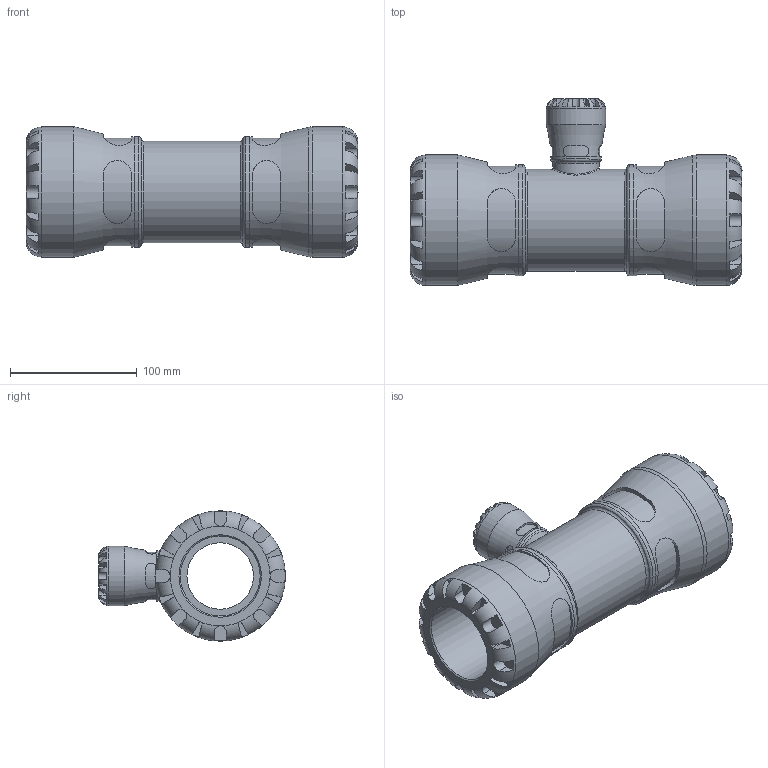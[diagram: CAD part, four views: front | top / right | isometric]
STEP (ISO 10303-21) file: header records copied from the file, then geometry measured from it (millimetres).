
FILE_DESCRIPTION(/* description */ ('PLASSON REDUCING TEE 63X25X63 SERIES 1'),/* implementation_level */ '2;1');
FILE_NAME(/* name */ 'C:\Dropbox\KIMPROJECTS-Inventor\99-16-3568-Processing\1034\103400063025_193400063025.ipt.stp',/* time_stamp */ '2017-01-22T11:40:50+02:00',/* author */ ('KIM'),/* organization */ (''),/* preprocessor_version */ 'ST-DEVELOPER v15.6',/* originating_system */ 'Autodesk Inventor 2015',/* authorisation */ '');
FILE_SCHEMA (('AUTOMOTIVE_DESIGN { 1 0 10303 214 3 1 1 }'));
Length unit declared in the file: millimetre
Products named in the file (1): 103400063025_193400063025
Bounding box: 262 x 147.5 x 103 mm (x, y, z)
Volume: 1001130.2 mm3; surface area: 156690.9 mm2
Topology: 1 solids, 1 shells, 287 faces, 731 edges, 458 vertices
Faces by surface type: plane 174, cylinder 97, torus 13, cone 2, bspline 1
Full cylindrical faces by diameter (mm): 20.833 x1, 25 x1, 36.66 x1, 39.95 x1, 47 x1, 52.5 x1, 63 x2, 80.34 x1, 87.55 x2, 103 x2
Entity records: 11289 total; most frequent: CARTESIAN_POINT 4479, ORIENTED_EDGE 1364, DIRECTION 1308, EDGE_CURVE 682, AXIS2_PLACEMENT_3D 534, VERTEX_POINT 441, EDGE_LOOP 335, STYLED_ITEM 288
